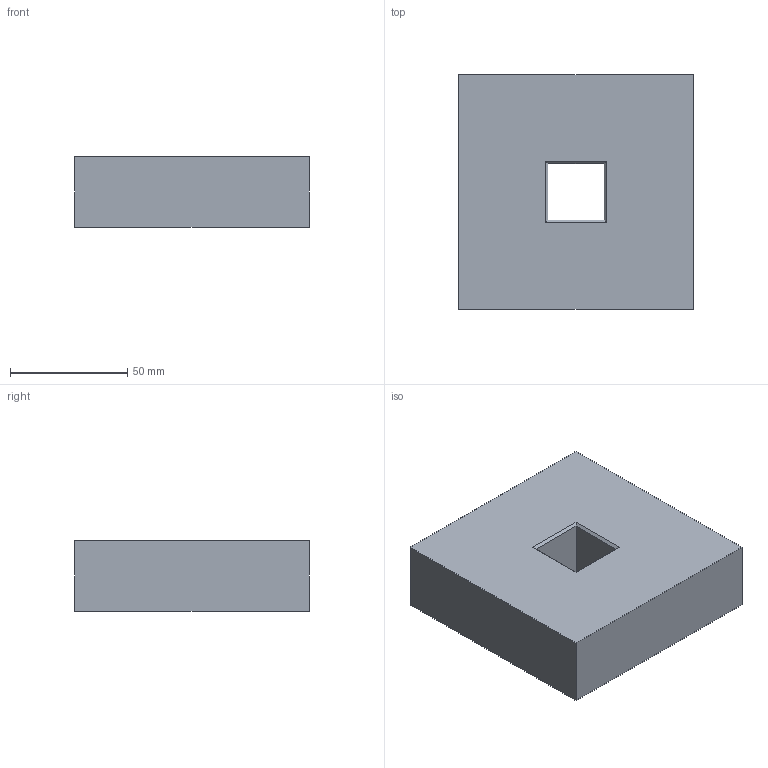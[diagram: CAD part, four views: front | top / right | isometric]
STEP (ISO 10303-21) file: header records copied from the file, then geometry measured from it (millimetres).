
FILE_DESCRIPTION(('Open CASCADE Model'),'2;1');
FILE_NAME('Open CASCADE Shape Model','2026-10-21T17:23:49',('Author'),( 'Open CASCADE'),'Open CASCADE STEP processor 7.9','Open CASCADE 7.9' ,'Unknown');
FILE_SCHEMA(('AUTOMOTIVE_DESIGN { 1 0 10303 214 1 1 1 1 }'));
Length unit declared in the file: millimetre
Products named in the file (1): Open CASCADE STEP translator 7.9 15
Bounding box: 100 x 100 x 30 mm (x, y, z)
Volume: 281624.7 mm3; surface area: 34083.6 mm2
Topology: 1 solids, 1 shells, 22 faces, 44 edges, 28 vertices
Faces by surface type: plane 14, bspline 4, cylinder 4
Full cylindrical faces by diameter (mm): 10.2 x4
Entity records: 1154 total; most frequent: CARTESIAN_POINT 227, DIRECTION 166, LINE 108, VECTOR 108, ORIENTED_EDGE 88, PCURVE 88, DEFINITIONAL_REPRESENTATION 88, EDGE_CURVE 44
